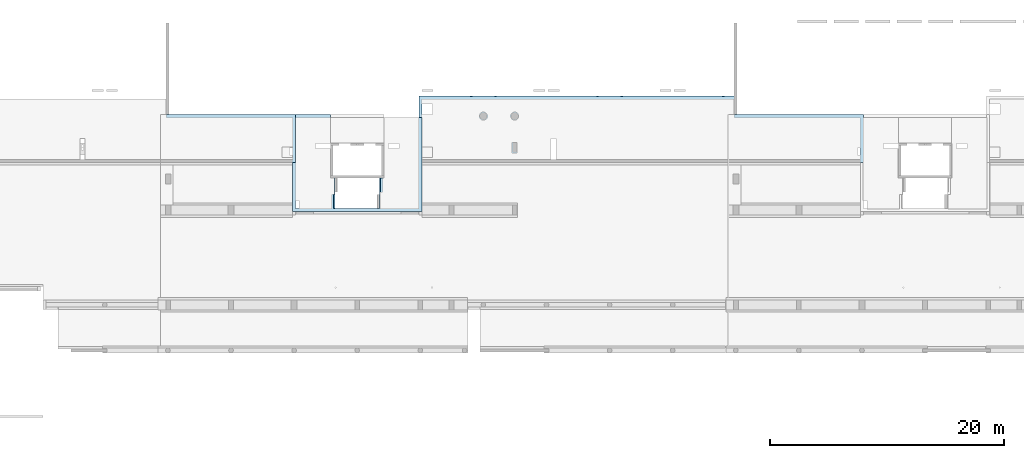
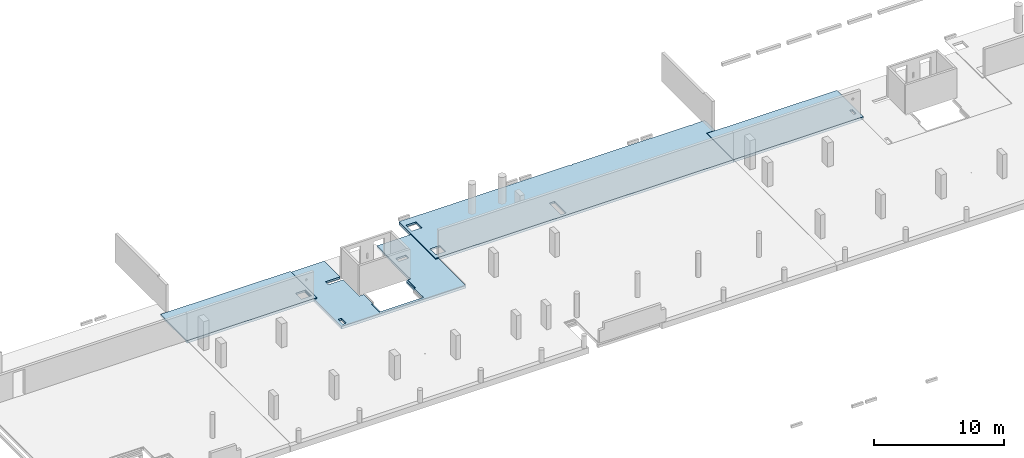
# One storey, part 8 of 10: 4 slabs.
"""IFC2X3 building model written with IfcOpenShell, lengths in millimetres."""

from ifc_helpers import new_model, entity, si_unit, converted_unit, derived_unit, direction, frame, origin, place, context, subcontext, project, spatial, faceted_brep, material, element, save


model = new_model("IFC2X3")

# Units and contexts
model_context = context("Model", 3, precision=0.01, world=origin(), true_north=direction((6.12303176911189e-17, 1.0)))
body_context = subcontext(model_context, "Body", "Model", "MODEL_VIEW")
ifc_project = project(units=[si_unit("LENGTHUNIT", "METRE", prefix="MILLI"), si_unit("AREAUNIT", "SQUARE_METRE"), si_unit("VOLUMEUNIT", "CUBIC_METRE"), converted_unit("PLANEANGLEUNIT", "DEGREE", entity("IfcRatioMeasure", 0.0174532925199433), si_unit("PLANEANGLEUNIT", "RADIAN"), dimensions=[0, 0, 0, 0, 0, 0, 0]), si_unit("MASSUNIT", "GRAM", prefix="KILO"), derived_unit("MASSDENSITYUNIT", [(si_unit("MASSUNIT", "GRAM", prefix="KILO"), 1), (si_unit("LENGTHUNIT", "METRE"), -3)]), si_unit("TIMEUNIT", "SECOND"), si_unit("FREQUENCYUNIT", "HERTZ"), si_unit("THERMODYNAMICTEMPERATUREUNIT", "DEGREE_CELSIUS"), derived_unit("THERMALTRANSMITTANCEUNIT", [(si_unit("MASSUNIT", "GRAM", prefix="KILO"), 1), (si_unit("THERMODYNAMICTEMPERATUREUNIT", "KELVIN"), -1), (si_unit("TIMEUNIT", "SECOND"), -3)]), derived_unit("VOLUMETRICFLOWRATEUNIT", [(si_unit("LENGTHUNIT", "METRE"), 3), (si_unit("TIMEUNIT", "SECOND"), -1)]), si_unit("ELECTRICCURRENTUNIT", "AMPERE"), si_unit("ELECTRICVOLTAGEUNIT", "VOLT"), si_unit("POWERUNIT", "WATT"), si_unit("FORCEUNIT", "NEWTON", prefix="KILO"), si_unit("ILLUMINANCEUNIT", "LUX"), si_unit("LUMINOUSFLUXUNIT", "LUMEN"), si_unit("LUMINOUSINTENSITYUNIT", "CANDELA"), derived_unit("USERDEFINED", [(si_unit("MASSUNIT", "GRAM", prefix="KILO"), -1), (si_unit("LENGTHUNIT", "METRE"), -2), (si_unit("TIMEUNIT", "SECOND"), 3), (si_unit("LUMINOUSFLUXUNIT", "LUMEN"), 1)]), derived_unit("LINEARVELOCITYUNIT", [(si_unit("LENGTHUNIT", "METRE"), 1), (si_unit("TIMEUNIT", "SECOND"), -1)]), si_unit("PRESSUREUNIT", "PASCAL"), derived_unit("USERDEFINED", [(si_unit("LENGTHUNIT", "METRE"), -2), (si_unit("MASSUNIT", "GRAM", prefix="KILO"), 1), (si_unit("TIMEUNIT", "SECOND"), -2)])], contexts=[model_context])

# Site, building, storey
site_placement = place(None, origin())
site = spatial("IfcSite", under=ifc_project, at=site_placement, Name="Default", CompositionType="ELEMENT")
building_placement = place(site_placement, origin())
building = spatial("IfcBuilding", under=site, at=building_placement, Name="niet gebruiken", CompositionType="ELEMENT")
storey_placement = place(building_placement, frame((0.0, 0.0, 6610.0)))
storey = spatial("IfcBuildingStorey", under=building, at=storey_placement, Name="01c derde tussenverdieping", CompositionType="ELEMENT", Elevation=6610.0)

# Slabs
ifc_material = material(Name="NLRS_f2_beton ihwg")
slab_1_placement = place(storey_placement, origin())
element("IfcSlab", 1, at=slab_1_placement, inside=storey, material=ifc_material, Name="Floor:NLRS_23.21_FL_breedplaat d=70/250_schil apart - gevlinderd_gen", ObjectType="Floor:NLRS_23.21_FL_breedplaat d=70/250_schil apart - gevlinderd_gen", PredefinedType="FLOOR", context=body_context, shape_type="Brep", body=[
    faceted_brep([(53655.0, 45031.0, -250.0), (53683.6234362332, 45104.8856059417, -250.0), (53712.2468724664, 45178.7712118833, -250.0), (53745.0419235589, 45263.4249970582, -250.0), (53816.7395886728, 45291.2008204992, -250.0), (53888.4372537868, 45318.9766439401, -250.0), (53960.1349189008, 45346.752467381, -250.0), (54031.8325840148, 45374.5282908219, -250.0), (54087.6139571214, 45346.752467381, -250.0), (54143.395330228, 45318.9766439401, -250.0), (54199.1767033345, 45291.2008204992, -250.0), (54254.9580764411, 45263.4249970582, -250.0), (54277.4685573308, 45205.3187477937, -250.0), (54299.9790382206, 45147.2124985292, -250.0), (54316.3765635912, 45104.885606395, -250.0), (54345.0, 45031.0, -250.0), (54316.3765638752, 44957.1143943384, -250.0), (54287.7531277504, 44883.2287886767, -250.0), (54254.9580764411, 44798.5750029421, -250.0), (54183.2604113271, 44770.7991795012, -250.0), (54111.5627462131, 44743.0233560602, -250.0), (54039.8650810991, 44715.2475326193, -250.0), (53968.1674159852, 44687.4717091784, -250.0), (53912.3860428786, 44715.2475326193, -250.0), (53856.604669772, 44743.0233560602, -250.0), (53800.8232966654, 44770.7991795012, -250.0), (53745.0419235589, 44798.5750029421, -250.0), (53722.5314426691, 44856.6812522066, -250.0), (53700.0209617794, 44914.7875014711, -250.0), (53683.6234367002, 44957.1143928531, -250.0), (56895.0, 42776.0, -250.0), (56895.0, 41886.0, -250.0), (56455.0, 41886.0, -250.0), (56455.0, 42776.0, -250.0), (56420.0419235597, 45263.4249970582, -250.0), (56491.7395886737, 45291.2008204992, -250.0), (56563.4372537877, 45318.9766439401, -250.0), (56635.1349189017, 45346.752467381, -250.0), (56706.8325840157, 45374.5282908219, -250.0), (56762.6139571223, 45346.752467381, -250.0), (56818.3953302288, 45318.9766439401, -250.0), (56874.1767033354, 45291.2008204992, -250.0), (56929.958076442, 45263.4249970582, -250.0), (56952.4685573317, 45205.3187477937, -250.0), (56974.9790382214, 45147.2124985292, -250.0), (56991.376563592, 45104.885606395, -250.0), (57020.0, 45031.0, -250.0), (56991.3765638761, 44957.1143943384, -250.0), (56962.7531277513, 44883.2287886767, -250.0), (56929.958076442, 44798.5750029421, -250.0), (56858.260411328, 44770.7991795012, -250.0), (56786.562746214, 44743.0233560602, -250.0), (56714.8650811, 44715.2475326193, -250.0), (56643.167415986, 44687.4717091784, -250.0), (56587.3860428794, 44715.2475326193, -250.0), (56531.6046697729, 44743.0233560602, -250.0), (56475.8232966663, 44770.7991795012, -250.0), (56420.0419235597, 44798.5750029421, -250.0), (56397.53144267, 44856.6812522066, -250.0), (56375.0209617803, 44914.7875014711, -250.0), (56358.6234367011, 44957.1143928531, -250.0), (56330.0, 45031.0, -250.0), (56358.6234362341, 45104.8856059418, -250.0), (56387.2468724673, 45178.7712118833, -250.0), (74950.0, 41061.0, -250.0), (48724.9998491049, 41061.0, -250.0), (48724.9998491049, 41291.0, -250.0), (59775.0, 41291.0, -250.0), (59775.0, 41311.0, -250.0), (60225.0, 41311.0, -250.0), (60225.0, 41291.0, -250.0), (74950.0, 41291.0, -250.0), (75470.0, 46516.0, -250.0), (48705.0, 46516.0, -250.0), (48705.0, 46056.0, -250.0), (48725.0, 46056.0, -250.0), (48725.0, 45156.0, -250.0), (48705.0, 45156.0, -250.0), (48705.0, 44906.0, -250.0), (48474.9998491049, 44906.0, -250.0), (48474.9998491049, 45136.0, -250.0), (48474.9998491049, 46746.0, -250.0), (48495.0, 46746.0, -250.0), (48725.0, 46746.0, -250.0), (49695.0, 46746.0, -250.0), (49725.0, 46746.0, -250.0), (49725.0, 46726.0, -250.0), (58275.0, 46726.0, -250.0), (58275.0, 46746.0, -250.0), (58305.0, 46746.0, -250.0), (59275.0, 46746.0, -250.0), (59525.0, 46746.0, -250.0), (60495.0, 46746.0, -250.0), (60525.0, 46746.0, -250.0), (60525.0, 46726.0, -250.0), (69075.0, 46726.0, -250.0), (69075.0, 46746.0, -250.0), (69105.0, 46746.0, -250.0), (70075.0, 46746.0, -250.0), (70325.0, 46746.0, -250.0), (71295.0, 46746.0, -250.0), (71325.0, 46746.0, -250.0), (71325.0, 46726.0, -250.0), (75470.0, 46726.0, -250.0), (75470.0, 46746.0, -250.0), (75700.0, 46746.0, -250.0), (75700.0, 46496.0, -250.0), (75700.0, 45176.0, -250.0), (75470.0, 45176.0, -250.0), (48724.9998491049, 41061.0, -90.0), (48724.9998491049, 41486.0, -90.0), (48724.9998491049, 41486.0, -180.0), (48724.9998491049, 41291.0, -180.0), (48724.9998491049, 44906.0, -90.0), (48724.9998491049, 44906.0, -180.0), (48724.9998491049, 42386.0, -180.0), (48724.9998491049, 42386.0, -90.0), (48474.9998491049, 41061.0, 0.0), (48725.0, 41061.0, 0.0), (48725.0, 41486.0, 0.0), (48725.0, 42386.0, 0.0), (48474.9998491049, 44906.0, 0.0), (49625.0, 41486.0, 0.0), (59775.0, 41311.0, 0.0), (60225.0, 41311.0, 0.0), (74950.0, 41061.0, 0.0), (65935.0, 46706.0, 0.0), (74950.0, 41311.0, 0.0), (74950.0, 45176.0, 0.0), (74440.0, 46706.0, 0.0), (74640.0, 46706.0, 0.0), (75450.0, 46746.0, 0.0), (75700.0, 45176.0, 0.0), (75700.0, 46746.0, 0.0), (74640.0, 46746.0, 0.0), (65935.0, 46746.0, 0.0), (74440.0, 46746.0, 0.0), (65735.0, 46706.0, 0.0), (63865.0, 46706.0, 0.0), (63865.0, 46746.0, 0.0), (65735.0, 46746.0, 0.0), (60225.0, 43111.0, 0.0), (63665.0, 46706.0, 0.0), (63665.0, 46746.0, 0.0), (59775.0, 43111.0, 0.0), (55135.0, 46746.0, 0.0), (55135.0, 46706.0, 0.0), (54935.0, 46706.0, 0.0), (49625.0, 42386.0, 0.0), (53065.0, 46706.0, 0.0), (54935.0, 46746.0, 0.0), (53065.0, 46746.0, 0.0), (52865.0, 46706.0, 0.0), (49625.0, 45156.0, 0.0), (49625.0, 46056.0, 0.0), (52865.0, 46746.0, 0.0), (48725.0, 46746.0, 0.0), (48725.0, 46056.0, 0.0), (48474.9998491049, 46746.0, 0.0), (48474.9998491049, 45156.0, 0.0), (48725.0, 45156.0, 0.0), (49725.0, 46746.0, -220.0), (48474.9998491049, 46746.0, -220.0), (48474.9998491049, 46746.0, -40.0), (52865.0, 46746.0, -40.0), (53065.0, 46746.0, -40.0), (54935.0, 46746.0, -40.0), (55135.0, 46746.0, -40.0), (63665.0, 46746.0, -40.0), (63865.0, 46746.0, -40.0), (65735.0, 46746.0, -40.0), (65935.0, 46746.0, -40.0), (74440.0, 46746.0, -40.0), (74640.0, 46746.0, -40.0), (75700.0, 46746.0, -40.0), (75470.0, 46746.0, -220.0), (71325.0, 46746.0, -220.0), (69075.0, 46746.0, -220.0), (60525.0, 46746.0, -220.0), (58275.0, 46746.0, -220.0), (48474.9998491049, 44906.0, -90.0), (48474.9998491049, 41061.0, -90.0), (75470.0, 45176.0, -180.0), (74950.0, 45176.0, -180.0), (74950.0, 41291.0, -180.0), (49625.0, 46056.0, -180.0), (48725.0, 46056.0, -180.0), (48725.0, 45156.0, -180.0), (49625.0, 45156.0, -180.0), (49625.0, 41486.0, -180.0), (49625.0, 42386.0, -180.0), (59775.0, 43111.0, -180.0), (60225.0, 43111.0, -180.0), (60225.0, 41311.0, -180.0), (59775.0, 41311.0, -180.0), (48705.0, 44906.0, -180.0), (58275.0, 46726.0, -220.0), (49725.0, 46726.0, -220.0), (69075.0, 46726.0, -220.0), (60525.0, 46726.0, -220.0), (75470.0, 46726.0, -220.0), (71325.0, 46726.0, -220.0), (75470.0, 46516.0, -180.0), (60225.0, 41291.0, -180.0), (56929.958076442, 45263.4249970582, -180.0), (56952.4685573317, 45205.3187477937, -180.0), (56974.9790382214, 45147.2124985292, -180.0), (56997.4895191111, 45089.1062492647, -180.0), (57020.0, 45031.0, -180.0), (56997.4895191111, 44972.8937507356, -180.0), (56974.9790382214, 44914.7875014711, -180.0), (56952.4685573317, 44856.6812522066, -180.0), (56929.958076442, 44798.5750029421, -180.0), (56895.0, 42776.0, -180.0), (56895.0, 41886.0, -180.0), (59775.0, 41291.0, -180.0), (56455.0, 41886.0, -180.0), (54031.8325840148, 44687.4717091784, -180.0), (53960.1349189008, 44715.2475326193, -180.0), (53888.4372537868, 44743.0233560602, -180.0), (53816.7395886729, 44770.7991795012, -180.0), (53745.0419235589, 44798.5750029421, -180.0), (48705.0, 45156.0, -180.0), (53722.5314426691, 44856.6812522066, -180.0), (53700.0209617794, 44914.7875014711, -180.0), (53677.5104808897, 44972.8937507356, -180.0), (53655.0, 45031.0, -180.0), (53677.5104808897, 45089.1062492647, -180.0), (53700.0209617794, 45147.2124985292, -180.0), (53722.5314426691, 45205.3187477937, -180.0), (53745.0419235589, 45263.4249970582, -180.0), (53800.8232966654, 45291.2008204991, -180.0), (53856.604669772, 45318.9766439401, -180.0), (53912.3860428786, 45346.752467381, -180.0), (53968.1674159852, 45374.5282908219, -180.0), (48705.0, 46516.0, -180.0), (48705.0, 46056.0, -180.0), (56643.167415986, 45374.5282908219, -180.0), (56714.8650811, 45346.752467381, -180.0), (54039.8650810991, 45346.752467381, -180.0), (54111.5627462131, 45318.9766439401, -180.0), (54183.2604113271, 45291.2008204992, -180.0), (54254.9580764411, 45263.4249970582, -180.0), (56587.3860428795, 45346.752467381, -180.0), (56531.6046697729, 45318.9766439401, -180.0), (56475.8232966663, 45291.2008204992, -180.0), (56420.0419235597, 45263.4249970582, -180.0), (54277.4685573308, 45205.3187477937, -180.0), (54299.9790382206, 45147.2124985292, -180.0), (54322.4895191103, 45089.1062492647, -180.0), (54345.0, 45031.0, -180.0), (56397.53144267, 45205.3187477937, -180.0), (56375.0209617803, 45147.2124985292, -180.0), (56352.5104808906, 45089.1062492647, -180.0), (56330.0, 45031.0, -180.0), (54322.4895191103, 44972.8937507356, -180.0), (54299.9790382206, 44914.7875014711, -180.0), (54277.4685573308, 44856.6812522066, -180.0), (54254.9580764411, 44798.5750029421, -180.0), (56352.5104808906, 44972.8937507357, -180.0), (56375.0209617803, 44914.7875014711, -180.0), (56397.53144267, 44856.6812522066, -180.0), (56420.0419235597, 44798.5750029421, -180.0), (56455.0, 42776.0, -180.0), (56491.7395886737, 44770.7991795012, -180.0), (56563.4372537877, 44743.0233560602, -180.0), (56635.1349189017, 44715.2475326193, -180.0), (56706.8325840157, 44687.4717091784, -180.0), (56762.6139571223, 44715.2475326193, -180.0), (56818.3953302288, 44743.0233560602, -180.0), (56874.1767033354, 44770.7991795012, -180.0), (54087.6139571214, 44715.2475326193, -180.0), (54143.395330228, 44743.0233560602, -180.0), (54199.1767033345, 44770.7991795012, -180.0), (56858.260411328, 45291.2008204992, -180.0), (56786.562746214, 45318.9766439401, -180.0), (52865.0, 46706.0, -40.0), (53065.0, 46706.0, -40.0), (54935.0, 46706.0, -40.0), (55135.0, 46706.0, -40.0), (65735.0, 46706.0, -40.0), (65935.0, 46706.0, -40.0), (63665.0, 46706.0, -40.0), (63865.0, 46706.0, -40.0), (74440.0, 46706.0, -40.0), (74640.0, 46706.0, -40.0)], [[[0, 1, 2, 3, 4, 5, 6, 7, 8, 9, 10, 11, 12, 13, 14, 15, 16, 17, 18, 19, 20, 21, 22, 23, 24, 25, 26, 27, 28, 29]], [[30, 31, 32, 33]], [[34, 35, 36, 37, 38, 39, 40, 41, 42, 43, 44, 45, 46, 47, 48, 49, 50, 51, 52, 53, 54, 55, 56, 57, 58, 59, 60, 61, 62, 63]], [[64, 65, 66, 67, 68, 69, 70, 71]], [[72, 73, 74, 75, 76, 77, 78, 79, 80, 81, 82, 83, 84, 85, 86, 87, 88, 89, 90, 91, 92, 93, 94, 95, 96, 97, 98, 99, 100, 101, 102, 103, 104, 105, 106, 107, 108]], [[66, 65, 109, 110, 111, 112]], [[113, 114, 115, 116]], [[117, 118, 119]], [[119, 120, 117]], [[117, 120, 121]], [[118, 122, 119]], [[118, 123, 122]], [[123, 118, 124]], [[118, 125, 124]], [[126, 124, 125]], [[126, 125, 127]], [[128, 126, 127]], [[129, 126, 128]], [[128, 130, 129]], [[130, 128, 131]], [[131, 128, 132]], [[132, 133, 131]], [[130, 131, 134]], [[126, 129, 135]], [[129, 136, 135]], [[126, 137, 124]], [[137, 138, 124]], [[138, 137, 139]], [[140, 139, 137]], [[141, 124, 138]], [[138, 142, 141]], [[143, 141, 142]], [[143, 144, 141]], [[144, 143, 145]], [[146, 144, 145]], [[147, 123, 146]], [[123, 144, 146]], [[148, 122, 147]], [[148, 147, 149]], [[149, 147, 150]], [[147, 122, 123]], [[149, 150, 151]], [[149, 152, 148]], [[148, 152, 153]], [[154, 153, 152]], [[152, 155, 154]], [[154, 155, 156]], [[154, 156, 157]], [[157, 156, 158]], [[157, 158, 159]], [[160, 159, 121]], [[159, 160, 157]], [[153, 121, 148]], [[160, 121, 153]], [[148, 121, 120]], [[161, 85, 84, 83, 82, 81, 162, 163, 158, 156, 155, 164, 165, 151, 150, 166, 167, 145, 143, 168, 169, 139, 140, 170, 171, 135, 136, 172, 173, 134, 131, 133, 174, 105, 104, 175, 176, 101, 100, 99, 98, 97, 96, 177, 178, 93, 92, 91, 90, 89, 88, 179]], [[106, 105, 174, 133, 132, 107]], [[79, 180, 181, 117, 121, 159, 158, 163, 162, 81, 80]], [[182, 108, 107, 132, 128, 183]], [[184, 183, 128, 127, 125, 64, 71]], [[64, 125, 118, 117, 181, 109, 65]], [[185, 154, 157, 186]], [[186, 157, 160, 187, 76, 75]], [[187, 160, 153, 188]], [[188, 153, 154, 185]], [[189, 122, 148, 190]], [[141, 144, 191, 192]], [[124, 141, 192, 193]], [[123, 124, 193, 69, 68, 194]], [[144, 123, 194, 191]], [[116, 115, 190, 148, 120]], [[116, 120, 119, 110]], [[110, 119, 122, 189, 111]], [[181, 180, 113, 116, 110, 109]], [[79, 78, 195, 114, 113, 180]], [[179, 196, 197, 161]], [[177, 198, 199, 178]], [[175, 200, 201, 176]], [[161, 197, 86, 85]], [[196, 87, 86, 197]], [[198, 95, 94, 199]], [[200, 103, 102, 201]], [[179, 88, 87, 196]], [[199, 94, 93, 178]], [[177, 96, 95, 198]], [[201, 102, 101, 176]], [[200, 175, 104, 103]], [[202, 72, 108, 182]], [[203, 193, 184]], [[192, 184, 193]], [[183, 184, 192]], [[202, 183, 192]], [[202, 192, 204]], [[191, 204, 192]], [[191, 205, 204]], [[191, 206, 205]], [[191, 207, 206]], [[191, 208, 207]], [[191, 209, 208]], [[191, 210, 209]], [[191, 211, 210]], [[191, 212, 211]], [[213, 212, 191]], [[191, 214, 213]], [[194, 214, 191]], [[214, 194, 215]], [[216, 214, 215]], [[216, 215, 189]], [[215, 112, 189]], [[189, 112, 111]], [[217, 216, 189]], [[189, 218, 217]], [[189, 219, 218]], [[189, 220, 219]], [[189, 221, 220]], [[190, 221, 189]], [[221, 190, 188]], [[190, 114, 188]], [[114, 190, 115]], [[188, 114, 187]], [[187, 114, 222]], [[222, 114, 195]], [[188, 223, 221]], [[188, 224, 223]], [[188, 225, 224]], [[188, 226, 225]], [[185, 226, 188]], [[185, 227, 226]], [[185, 228, 227]], [[185, 229, 228]], [[185, 230, 229]], [[185, 231, 230]], [[185, 232, 231]], [[185, 233, 232]], [[185, 234, 233]], [[185, 235, 234]], [[235, 185, 186]], [[186, 236, 235]], [[235, 237, 234]], [[235, 202, 237]], [[202, 238, 237]], [[237, 239, 234]], [[237, 240, 239]], [[237, 241, 240]], [[237, 242, 241]], [[242, 237, 243]], [[242, 243, 244]], [[242, 244, 245]], [[242, 245, 246]], [[246, 247, 242]], [[246, 248, 247]], [[246, 249, 248]], [[246, 250, 249]], [[250, 246, 251]], [[250, 251, 252]], [[250, 252, 253]], [[250, 253, 254]], [[254, 255, 250]], [[254, 256, 255]], [[254, 257, 256]], [[254, 258, 257]], [[258, 254, 259]], [[258, 259, 260]], [[258, 260, 261]], [[258, 261, 262]], [[258, 262, 263]], [[263, 262, 264]], [[263, 264, 265]], [[263, 265, 266]], [[263, 266, 267]], [[213, 267, 268]], [[267, 213, 263]], [[213, 268, 269]], [[213, 269, 270]], [[213, 270, 212]], [[263, 217, 271]], [[263, 216, 217]], [[263, 271, 272]], [[263, 272, 273]], [[263, 273, 258]], [[202, 204, 274]], [[202, 274, 275]], [[202, 275, 238]], [[202, 182, 183]], [[203, 184, 71, 70]], [[215, 67, 66, 112]], [[235, 236, 74, 73]], [[222, 195, 78, 77]], [[202, 235, 73, 72]], [[203, 70, 69, 193]], [[215, 194, 68, 67]], [[222, 77, 76, 187]], [[236, 186, 75, 74]], [[216, 263, 33, 32]], [[214, 216, 32, 31]], [[213, 214, 31, 30]], [[263, 213, 30, 33]], [[262, 261, 260, 259, 254, 61, 60, 59, 58, 57]], [[54, 266, 265]], [[54, 53, 266]], [[55, 265, 264]], [[53, 267, 266]], [[49, 48, 47, 46, 208, 209, 210, 211, 212]], [[212, 270, 49]], [[264, 262, 56]], [[267, 52, 268]], [[269, 50, 270]], [[268, 52, 51]], [[262, 57, 56]], [[55, 264, 56]], [[267, 53, 52]], [[49, 270, 50]], [[265, 55, 54]], [[51, 269, 268]], [[50, 269, 51]], [[204, 205, 206, 207, 208, 46, 45, 44, 43, 42]], [[243, 37, 36]], [[39, 38, 238]], [[40, 275, 274]], [[274, 204, 41]], [[38, 37, 237]], [[34, 63, 62, 61, 254, 253, 252, 251, 246]], [[246, 245, 34]], [[237, 37, 243]], [[244, 35, 245]], [[275, 39, 238]], [[275, 40, 39]], [[204, 42, 41]], [[40, 274, 41]], [[34, 245, 35]], [[36, 244, 243]], [[38, 237, 238]], [[35, 244, 36]], [[242, 247, 248, 249, 250, 15, 14, 13, 12, 11]], [[233, 6, 5]], [[8, 7, 239]], [[9, 240, 241]], [[241, 242, 10]], [[7, 6, 234]], [[3, 2, 1, 0, 226, 227, 228, 229, 230]], [[230, 231, 3]], [[234, 6, 233]], [[232, 4, 231]], [[240, 8, 239]], [[240, 9, 8]], [[242, 11, 10]], [[9, 241, 10]], [[3, 231, 4]], [[5, 232, 233]], [[7, 234, 239]], [[4, 232, 5]], [[221, 223, 224, 225, 226, 0, 29, 28, 27, 26]], [[23, 218, 219]], [[23, 22, 218]], [[24, 219, 220]], [[22, 217, 218]], [[18, 17, 16, 15, 250, 255, 256, 257, 258]], [[258, 273, 18]], [[220, 221, 25]], [[217, 21, 271]], [[272, 19, 273]], [[271, 21, 20]], [[221, 26, 25]], [[24, 220, 25]], [[217, 22, 21]], [[18, 273, 19]], [[219, 24, 23]], [[20, 272, 271]], [[19, 272, 20]], [[165, 164, 276, 277]], [[167, 166, 278, 279]], [[171, 170, 280, 281]], [[169, 168, 282, 283]], [[173, 172, 284, 285]], [[276, 164, 155, 152]], [[277, 276, 152, 149]], [[279, 278, 147, 146]], [[281, 280, 137, 126]], [[283, 282, 142, 138]], [[285, 284, 129, 130]], [[277, 149, 151, 165]], [[278, 166, 150, 147]], [[279, 146, 145, 167]], [[280, 170, 140, 137]], [[281, 126, 135, 171]], [[282, 168, 143, 142]], [[283, 138, 139, 169]], [[284, 172, 136, 129]], [[285, 130, 134, 173]]]),
])
slab_2_placement = place(storey_placement, origin())
element("IfcSlab", 2, at=slab_2_placement, inside=storey, Name="Floor:NLRS_23.21_FL_breedplaat d=70/250_schil apart - gevlinderd_gen", ObjectType="Floor:NLRS_23.21_FL_breedplaat d=70/250_schil apart - gevlinderd_gen", PredefinedType="FLOOR", context=body_context, shape_type="Brep", body=[
    faceted_brep([(26370.0, 41061.0, -250.0), (26370.0, 41291.0, -250.0), (37674.9998491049, 41291.0, -250.0), (37674.9998491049, 41061.0, -250.0), (37925.0, 45156.0, 0.0), (26850.0, 45156.0, 0.0), (26370.0, 45156.0, 0.0), (26370.0, 41311.0, 0.0), (26370.0, 41061.0, 0.0), (37675.0, 41061.0, 0.0), (37925.0, 41061.0, 0.0), (37925.0, 43386.0, 0.0), (37925.0, 44411.0, 0.0), (37925.0, 44906.0, 0.0), (36775.0, 42386.0, 0.0), (37675.0, 42386.0, 0.0), (37675.0, 42317.600192, 0.0), (37675.0, 41702.600192, 0.0), (37675.0, 41486.0, 0.0), (36775.0, 41486.0, 0.0), (37925.0, 45156.0, -90.0), (37674.9998491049, 45156.0, -90.0), (37674.9998491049, 45156.0, -220.0), (32530.0, 45156.0, -220.0), (32530.0, 45156.0, -250.0), (26870.0, 45156.0, -250.0), (26870.0, 45156.0, -180.0), (26370.0, 45156.0, -180.0), (37925.0, 41061.0, -90.0), (37925.0, 44906.0, -90.0), (37674.9998491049, 41061.0, -90.0), (26370.0, 41291.0, -180.0), (36775.0, 42386.0, -180.0), (37674.9998491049, 42386.0, -180.0), (37675.0, 42386.0, -90.0), (36775.0, 41486.0, -180.0), (37674.9998491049, 41486.0, -90.0), (37675.0, 41486.0, -180.0), (37675.0, 41486.0, -90.0), (26870.0, 44926.0, -180.0), (37674.9998491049, 44926.0, -180.0), (37675.0, 42386.0, -180.0), (37674.9998491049, 41486.0, -180.0), (37674.9998491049, 41291.0, -180.0), (26870.0, 44926.0, -250.0), (37674.9998491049, 44926.0, -250.0), (37674.9998491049, 45136.0, -220.0), (32530.0, 45136.0, -220.0), (37674.9998491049, 45136.0, -250.0), (32530.0, 45136.0, -250.0), (37674.9998491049, 42386.0, -90.0)], [[[0, 1, 2, 3]], [[4, 5, 6, 7, 8, 9, 10, 11, 12, 13], [14, 15, 16, 17, 18, 19]], [[6, 5, 4, 20, 21, 22, 23, 24, 25, 26, 27]], [[4, 13, 12, 11, 10, 28, 29, 20]], [[10, 9, 8, 0, 3, 30, 28]], [[8, 7, 6, 27, 31, 1, 0]], [[15, 14, 32, 33, 34]], [[14, 19, 35, 32]], [[19, 18, 36, 37, 35]], [[15, 34, 38, 18, 17, 16]], [[26, 39, 40, 41, 32, 35, 42, 43, 31, 27]], [[39, 26, 25, 44]], [[39, 44, 45, 40]], [[1, 31, 43, 2]], [[34, 21, 20, 29, 28, 30, 38]], [[38, 30, 3, 2, 43, 42]], [[46, 47, 23, 22]], [[47, 46, 48, 49]], [[23, 47, 49, 24]], [[21, 50, 33, 40, 45, 48, 46, 22]], [[44, 25, 24, 49, 48, 45]]]),
])
slab_3_placement = place(storey_placement, origin())
element("IfcSlab", 3, at=slab_3_placement, inside=storey, Name="Floor:NLRS_23.21_FL_breedplaat d=70/250_schil apart_gen", ObjectType="Floor:NLRS_23.21_FL_breedplaat d=70/250_schil apart_gen", PredefinedType="FLOOR", context=body_context, shape_type="Brep", body=[
    faceted_brep([(37674.9998491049, 45156.0, -340.0), (40924.9998491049, 45156.0, -340.0), (40924.9998491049, 44926.0, -340.0), (37905.0, 44926.0, -340.0), (37905.0, 37826.0, -340.0), (37925.0, 37826.0, -340.0), (37925.0, 37106.0, -340.0), (38225.0, 37106.0, -340.0), (38225.0, 37086.0, -340.0), (41029.9997832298, 37086.0, -340.0), (41029.9997832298, 38306.0, -340.0), (41249.9997832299, 38306.0, -340.0), (41249.9997832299, 39726.0, -340.0), (40904.9998491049, 39726.0, -340.0), (40904.9998491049, 42256.0, -340.0), (40924.9998491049, 42256.0, -340.0), (40924.9998491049, 39746.0, -340.0), (41300.0, 39746.0, -340.0), (41300.0, 38526.0, -340.0), (41299.9997832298, 38326.0, -340.0), (41299.9997832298, 37106.0, -340.0), (44880.0, 37106.0, -340.0), (45099.9997832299, 37106.0, -340.0), (45099.9997832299, 38326.0, -340.0), (45100.0, 38526.0, -340.0), (45100.0, 39746.0, -340.0), (45474.999849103, 39746.0, -340.0), (45474.999849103, 42696.0, -340.0), (45494.999849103, 42696.0, -340.0), (45494.999849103, 39726.0, -340.0), (45370.0, 39726.0, -340.0), (45370.0, 38546.0, -340.0), (45149.9997832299, 38546.0, -340.0), (45149.9997832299, 37086.0, -340.0), (48495.0, 37086.0, -340.0), (48495.0, 44906.0, -340.0), (48724.9998491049, 44906.0, -340.0), (48724.9998491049, 36856.0, -340.0), (48475.0, 36856.0, -340.0), (37674.9998491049, 36856.0, -340.0), (37674.9998491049, 44906.0, -340.0), (37925.0, 37106.0, -90.0), (37925.0, 37826.0, -90.0), (38225.0, 37826.0, -90.0), (38225.0, 37106.0, -90.0), (40924.9998491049, 45156.0, -90.0), (37925.0, 45156.0, -90.0), (37674.9998491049, 45156.0, -90.0), (37674.9998491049, 42386.0, -90.0), (37674.9998491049, 41486.0, -90.0), (37674.9998491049, 41061.0, -90.0), (37674.9998491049, 36856.0, -90.0), (38325.0, 36856.0, -90.0), (39455.0, 36856.0, -90.0), (46945.0, 36856.0, -90.0), (48075.0, 36856.0, -90.0), (48475.0, 36856.0, -90.0), (48724.9998491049, 36856.0, -90.0), (48724.9998491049, 41061.0, -90.0), (48724.9998491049, 41486.0, -90.0), (48724.9998491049, 42386.0, -90.0), (48724.9998491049, 44906.0, -90.0), (48474.9998491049, 44906.0, -90.0), (45474.999849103, 44906.0, -90.0), (45474.999849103, 42696.0, -90.0), (45474.999849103, 39746.0, -90.0), (45210.0, 39746.0, -90.0), (45210.0, 38526.0, -90.0), (45099.9997832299, 38526.0, -90.0), (45099.9997832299, 38326.0, -90.0), (45099.9997832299, 37106.0, -90.0), (44990.0, 37106.0, -90.0), (41189.9997832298, 37106.0, -90.0), (41189.9997832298, 38326.0, -90.0), (41300.0, 38326.0, -90.0), (41300.0, 38526.0, -90.0), (41300.0, 39746.0, -90.0), (40924.9998491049, 39746.0, -90.0), (40924.9998491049, 42256.0, -90.0), (39627.4998491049, 42256.0, -90.0), (39627.4998491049, 42696.0, -90.0), (40924.9998491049, 42696.0, -90.0), (45880.0, 42701.0, -90.0), (46780.0, 42701.0, -90.0), (46780.0, 42251.0, -90.0), (45880.0, 42251.0, -90.0), (37674.9998491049, 45156.0, -290.0), (40924.9998491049, 45156.0, -290.0), (48724.9998491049, 44906.0, -180.0), (37674.9998491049, 41291.0, -250.0), (37674.9998491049, 41702.600192, -250.0), (37674.9998491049, 42317.600192, -250.0), (37674.9998491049, 44906.0, -250.0), (37674.9998491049, 44926.0, -250.0), (37674.9998491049, 44926.0, -180.0), (37674.9998491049, 42386.0, -180.0), (37674.9998491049, 42317.600192, -180.0), (37674.9998491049, 41702.600192, -180.0), (37674.9998491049, 41486.0, -180.0), (37674.9998491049, 41291.0, -180.0), (37674.9998491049, 45156.0, -220.0), (37674.9998491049, 45136.0, -220.0), (37674.9998491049, 45136.0, -250.0), (37674.9998491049, 45136.0, -290.0), (40924.9998491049, 42696.0, -270.0), (40924.9998491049, 42716.0, -270.0), (40924.9998491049, 44926.0, -270.0), (40924.9998491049, 45136.0, -290.0), (40924.9998491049, 45136.0, -220.0), (40924.9998491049, 45156.0, -220.0), (45100.0, 39746.0, -130.0), (45210.0, 39746.0, -130.0), (45474.999849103, 44906.0, -270.0), (45474.999849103, 42716.0, -270.0), (45474.999849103, 42696.0, -270.0), (41299.9997832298, 38326.0, -130.0), (41299.9997832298, 37106.0, -130.0), (41189.9997832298, 37106.0, -130.0), (45099.9997832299, 38526.0, -340.0), (45100.0, 38526.0, -130.0), (48495.0, 44906.0, -270.0), (41300.0, 38326.0, -340.0), (45210.0, 38526.0, -130.0), (45099.9997832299, 38526.0, -130.0), (45100.0, 38526.0, -90.0), (41189.9997832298, 38326.0, -130.0), (41300.0, 38326.0, -130.0), (41299.9997832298, 38326.0, -90.0), (39627.4998491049, 42696.0, -270.0), (39627.4998491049, 42256.0, -270.0), (40904.9998491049, 42256.0, -270.0), (37925.0, 37826.0, -270.0), (38225.0, 37826.0, -270.0), (38225.0, 37106.0, -270.0), (45494.999849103, 42696.0, -270.0), (48495.0, 37086.0, -270.0), (45149.9997832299, 37086.0, -270.0), (45149.9997832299, 38546.0, -270.0), (45370.0, 38546.0, -270.0), (45370.0, 39726.0, -270.0), (45494.999849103, 39726.0, -270.0), (46780.0, 42701.0, -270.0), (45880.0, 42701.0, -270.0), (45880.0, 42251.0, -270.0), (46780.0, 42251.0, -270.0), (40904.9998491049, 39726.0, -270.0), (41029.9997832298, 37086.0, -270.0), (41029.9997832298, 38306.0, -270.0), (41249.9997832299, 39726.0, -270.0), (41249.9997832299, 38306.0, -270.0), (38225.0, 37086.0, -270.0), (37905.0, 37826.0, -270.0), (37905.0, 44926.0, -270.0), (37695.0, 41291.0, -250.0), (37695.0, 44926.0, -250.0), (37695.0, 44926.0, -180.0), (37695.0, 41291.0, -180.0)], [[[0, 1, 2, 3, 4, 5, 6, 7, 8, 9, 10, 11, 12, 13, 14, 15, 16, 17, 18, 19, 20, 21, 22, 23, 24, 25, 26, 27, 28, 29, 30, 31, 32, 33, 34, 35, 36, 37, 38, 39, 40]], [[41, 42, 43, 44], [45, 46, 47, 48, 49, 50, 51, 52, 53, 54, 55, 56, 57, 58, 59, 60, 61, 62, 63, 64, 65, 66, 67, 68, 69, 70, 71, 72, 73, 74, 75, 76, 77, 78, 79, 80, 81], [82, 83, 84, 85]], [[1, 0, 86, 87]], [[37, 36, 88, 61, 60, 59, 58, 57]], [[39, 38, 37, 57, 56, 55, 54, 53, 52, 51]], [[89, 90, 91, 92, 93, 94, 95, 96, 97, 98, 99], [0, 40, 39, 51, 50, 49, 48, 47, 100, 101, 102, 103, 86]], [[45, 81, 104, 105, 106, 2, 1, 87, 107, 108, 109]], [[26, 25, 110, 111, 66, 65]], [[26, 65, 64, 63, 112, 113, 114, 27]], [[20, 19, 115, 116]], [[22, 21, 20, 116, 117, 72, 71, 70]], [[118, 23, 22, 70, 69, 68, 119]], [[17, 16, 77, 76]], [[63, 62, 61, 88, 36, 35, 120, 112]], [[25, 24, 119, 110]], [[17, 76, 75, 74, 115, 121, 18]], [[119, 122, 111, 110]], [[111, 122, 67, 66]], [[122, 123, 124, 67]], [[117, 116, 115, 125]], [[117, 125, 73, 72]], [[125, 126, 127, 73]], [[81, 80, 128, 104]], [[80, 79, 129, 128]], [[79, 78, 15, 14, 130, 129]], [[41, 6, 5, 131, 42]], [[43, 42, 131, 132]], [[44, 43, 132, 133]], [[6, 41, 44, 133, 7]], [[134, 114, 113, 112, 120, 135, 136, 137, 138, 139, 140], [141, 142, 143, 144]], [[145, 130, 14, 13]], [[140, 139, 30, 29]], [[146, 147, 10, 9]], [[137, 136, 33, 32]], [[148, 145, 13, 12]], [[138, 137, 32, 31]], [[139, 138, 31, 30]], [[149, 148, 12, 11]], [[150, 146, 9, 8]], [[150, 8, 7, 133]], [[4, 151, 131, 5]], [[152, 151, 4, 3]], [[106, 152, 3, 2]], [[34, 135, 120, 35]], [[136, 135, 34, 33]], [[134, 140, 29, 28]], [[114, 134, 28, 27]], [[147, 149, 11, 10]], [[153, 154, 93, 92, 91, 90, 89]], [[155, 156, 99, 98, 97, 96, 95, 94]], [[154, 155, 94, 93]], [[154, 153, 156, 155]], [[153, 89, 99, 156]], [[103, 107, 87, 86]], [[108, 101, 100, 109]], [[107, 103, 102, 101, 108]], [[83, 82, 142, 141]], [[84, 83, 141, 144]], [[85, 84, 144, 143]], [[82, 85, 143, 142]], [[152, 106, 105, 104, 128, 129, 130, 145, 148, 149, 147, 146, 150, 133, 132, 131, 151]], [[77, 16, 15, 78]], [[47, 46, 45, 109, 100]]], outer=[[True], [False, True, False], [True], [True], [True], [False, True], [True], [True], [True], [True], [True], [True], [True], [True], [True], [True], [True], [True], [True], [True], [True], [True], [True], [True], [True], [True], [True], [True], [True], [True, False], [True], [True], [True], [True], [True], [True], [True], [True], [True], [True], [True], [True], [True], [True], [True], [True], [True], [True], [True], [True], [True], [True], [True], [True], [True], [True], [True], [True], [True], [True], [True], [True], [True]]),
])
slab_4_placement = place(storey_placement, origin())
element("IfcSlab", 4, at=slab_4_placement, inside=storey, Name="Floor:NLRS_23.21_FL_breedplaat d=70/250_schil apart - gevlinderd_gen", ObjectType="Floor:NLRS_23.21_FL_breedplaat d=70/250_schil apart - gevlinderd_gen", PredefinedType="FLOOR", context=body_context, shape_type="Brep", body=[
    faceted_brep([(86525.0, 41061.0, -250.0), (86275.0, 41061.0, -250.0), (74970.0, 41061.0, -250.0), (74970.0, 41291.0, -250.0), (86295.0, 41291.0, -250.0), (86295.0, 44926.0, -250.0), (75470.0, 44926.0, -250.0), (75470.0, 45156.0, -250.0), (81130.0, 45156.0, -250.0), (81130.0, 45136.0, -250.0), (86275.0, 45136.0, -250.0), (86525.0, 45136.0, -250.0), (74970.0, 41061.0, 0.0), (86275.0, 41061.0, 0.0), (86525.0, 41061.0, 0.0), (86525.0, 43386.0, 0.0), (86525.0, 44411.0, 0.0), (86525.0, 44906.0, 0.0), (86525.0, 45156.0, 0.0), (75450.0, 45156.0, 0.0), (74970.0, 45156.0, 0.0), (74970.0, 41311.0, 0.0), (86015.0, 42318.599707, 0.0), (86275.0, 42318.599707, 0.0), (86275.0, 41703.599707, 0.0), (86015.0, 41703.599707, 0.0), (86525.0, 41061.0, -90.0), (74970.0, 45156.0, -180.0), (74970.0, 41291.0, -180.0), (86525.0, 45156.0, -90.0), (86525.0, 45156.0, -220.0), (81130.0, 45156.0, -220.0), (75470.0, 45156.0, -180.0), (86525.0, 45136.0, -220.0), (81130.0, 45136.0, -220.0), (86295.0, 41291.0, -180.0), (75470.0, 44926.0, -180.0), (86295.0, 44926.0, -180.0), (86275.0, 42318.599707, -180.0), (86015.0, 42318.599707, -180.0), (86015.0, 41703.599707, -180.0), (86275.0, 41703.599707, -180.0)], [[[0, 1, 2, 3, 4, 5, 6, 7, 8, 9, 10, 11]], [[12, 13, 14, 15, 16, 17, 18, 19, 20, 21], [22, 23, 24, 25]], [[2, 1, 0, 26, 14, 13, 12]], [[12, 21, 20, 27, 28, 3, 2]], [[20, 19, 18, 29, 30, 31, 8, 7, 32, 27]], [[18, 17, 16, 15, 14, 26, 0, 11, 33, 30, 29]], [[33, 34, 31, 30]], [[34, 33, 11, 10, 9]], [[31, 34, 9, 8]], [[35, 28, 27, 32, 36, 37], [38, 39, 40, 41]], [[36, 32, 7, 6]], [[37, 36, 6, 5]], [[35, 37, 5, 4]], [[28, 35, 4, 3]], [[23, 22, 39, 38]], [[22, 25, 40, 39]], [[25, 24, 41, 40]], [[24, 23, 38, 41]]]),
])

save(model, "model.ifc")
